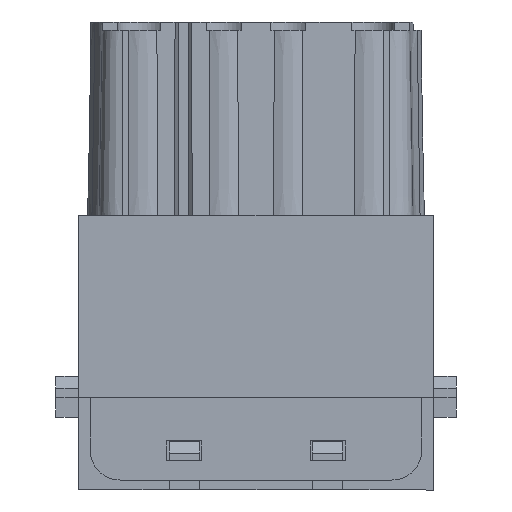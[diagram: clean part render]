
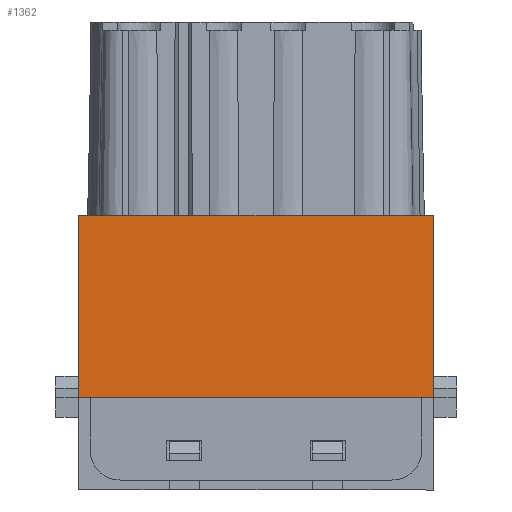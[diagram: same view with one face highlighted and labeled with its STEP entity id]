
A CAD part, left-side view. The second image highlights one B-rep face of the part: STEP entity #1362.
In plain terms, the highlighted planar face has unit normal (-1, 0, 0).
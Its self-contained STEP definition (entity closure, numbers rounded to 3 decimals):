
#1362=ADVANCED_FACE('',(#2392),#1992,.T.);
#1992=PLANE('',#12182);
#2392=FACE_OUTER_BOUND('',#2973,.T.);
#2973=EDGE_LOOP('',(#4108,#4109,#4110,#4111));
#4108=ORIENTED_EDGE('',*,*,#8635,.T.);
#4109=ORIENTED_EDGE('',*,*,#8636,.T.);
#4110=ORIENTED_EDGE('',*,*,#8455,.T.);
#4111=ORIENTED_EDGE('',*,*,#8637,.T.);
#7268=VERTEX_POINT('',#16436);
#7269=VERTEX_POINT('',#16438);
#7436=VERTEX_POINT('',#16888);
#7437=VERTEX_POINT('',#16889);
#8455=EDGE_CURVE('',#7269,#7268,#10058,.T.);
#8635=EDGE_CURVE('',#7436,#7437,#10176,.T.);
#8636=EDGE_CURVE('',#7437,#7269,#10177,.T.);
#8637=EDGE_CURVE('',#7268,#7436,#10178,.T.);
#10058=LINE('',#16437,#11060);
#10176=LINE('',#16887,#11178);
#10177=LINE('',#16890,#11179);
#10178=LINE('',#16891,#11180);
#11060=VECTOR('',#13275,1.);
#11178=VECTOR('',#13483,1.);
#11179=VECTOR('',#13484,1.);
#11180=VECTOR('',#13485,1.);
#12182=AXIS2_PLACEMENT_3D('',#16892,#13486,#13487);
#13275=DIRECTION('',(0.,0.,1.));
#13483=DIRECTION('',(0.,0.,-1.));
#13484=DIRECTION('',(0.,-1.,0.));
#13485=DIRECTION('',(0.,1.,0.));
#13486=DIRECTION('',(-1.,0.,0.));
#13487=DIRECTION('',(0.,-1.,0.));
#16436=CARTESIAN_POINT('',(-22.025,-15.15,17.25));
#16437=CARTESIAN_POINT('',(-22.025,-15.15,16.75));
#16438=CARTESIAN_POINT('',(-22.025,-15.15,1.7));
#16887=CARTESIAN_POINT('',(-22.025,15.15,16.85));
#16888=CARTESIAN_POINT('',(-22.025,15.15,17.25));
#16889=CARTESIAN_POINT('',(-22.025,15.15,1.7));
#16890=CARTESIAN_POINT('',(-22.025,-14.15,1.7));
#16891=CARTESIAN_POINT('',(-22.025,-15.15,17.25));
#16892=CARTESIAN_POINT('',(-22.025,-15.25,16.85));
